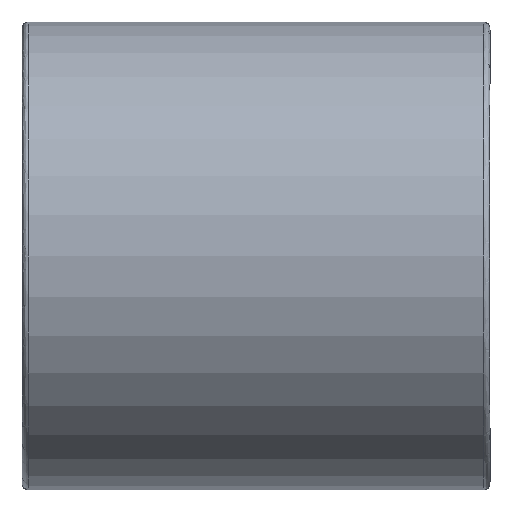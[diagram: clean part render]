
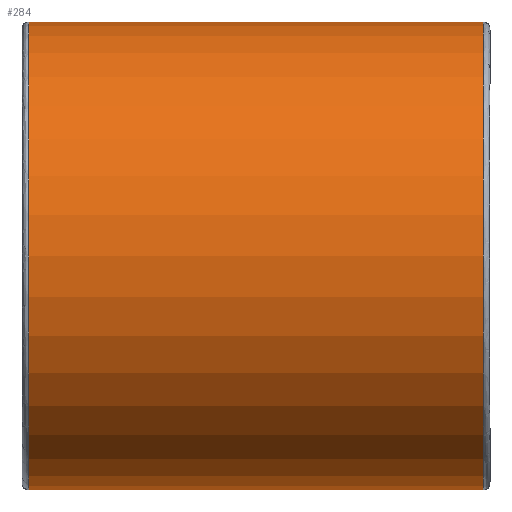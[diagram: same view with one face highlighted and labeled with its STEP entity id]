
A CAD part, left-side view. The second image highlights one B-rep face of the part: STEP entity #284.
In plain terms, the highlighted cylindrical face has radius 9 mm (diameter 18 mm), a partial arc.
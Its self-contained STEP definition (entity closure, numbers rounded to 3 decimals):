
#13 = CARTESIAN_POINT ( 'NONE',  ( 0., -8.75, 0. ) ) ;
#17 = LINE ( 'NONE', #149, #401 ) ;
#97 = CARTESIAN_POINT ( 'NONE',  ( 0., 9., 0. ) ) ;
#107 = DIRECTION ( 'NONE',  ( 0., -1., 0. ) ) ;
#128 = ORIENTED_EDGE ( 'NONE', *, *, #726, .T. ) ;
#149 = CARTESIAN_POINT ( 'NONE',  ( 0., 9., 9. ) ) ;
#234 = CARTESIAN_POINT ( 'NONE',  ( 0., 9., -9. ) ) ;
#265 = DIRECTION ( 'NONE',  ( 0., 0., -1. ) ) ;
#267 = VECTOR ( 'NONE', #107, 1000. ) ;
#284 = ADVANCED_FACE ( 'NONE', ( #342 ), #303, .T. ) ;
#288 = CARTESIAN_POINT ( 'NONE',  ( 0., -8.75, -9. ) ) ;
#294 = EDGE_CURVE ( 'NONE', #585, #437, #17, .T. ) ;
#297 = DIRECTION ( 'NONE',  ( 0., 0., -1. ) ) ;
#303 = CYLINDRICAL_SURFACE ( 'NONE', #641, 9. ) ;
#320 = AXIS2_PLACEMENT_3D ( 'NONE', #392, #824, #468 ) ;
#323 = VERTEX_POINT ( 'NONE', #288 ) ;
#342 = FACE_OUTER_BOUND ( 'NONE', #540, .T. ) ;
#392 = CARTESIAN_POINT ( 'NONE',  ( 0., 8.75, 0. ) ) ;
#401 = VECTOR ( 'NONE', #794, 1000. ) ;
#437 = VERTEX_POINT ( 'NONE', #599 ) ;
#461 = EDGE_CURVE ( 'NONE', #498, #323, #826, .T. ) ;
#468 = DIRECTION ( 'NONE',  ( 0., 0., -1. ) ) ;
#498 = VERTEX_POINT ( 'NONE', #827 ) ;
#517 = EDGE_CURVE ( 'NONE', #585, #498, #729, .T. ) ;
#539 = CARTESIAN_POINT ( 'NONE',  ( 0., 8.75, 9. ) ) ;
#540 = EDGE_LOOP ( 'NONE', ( #872, #674, #836, #128 ) ) ;
#585 = VERTEX_POINT ( 'NONE', #539 ) ;
#599 = CARTESIAN_POINT ( 'NONE',  ( 0., -8.75, 9. ) ) ;
#641 = AXIS2_PLACEMENT_3D ( 'NONE', #97, #784, #297 ) ;
#674 = ORIENTED_EDGE ( 'NONE', *, *, #517, .T. ) ;
#697 = DIRECTION ( 'NONE',  ( 0., 1., 0. ) ) ;
#726 = EDGE_CURVE ( 'NONE', #323, #437, #731, .T. ) ;
#729 = CIRCLE ( 'NONE', #320, 9. ) ;
#731 = CIRCLE ( 'NONE', #788, 9. ) ;
#784 = DIRECTION ( 'NONE',  ( 0., -1., 0. ) ) ;
#788 = AXIS2_PLACEMENT_3D ( 'NONE', #13, #697, #265 ) ;
#794 = DIRECTION ( 'NONE',  ( 0., -1., 0. ) ) ;
#824 = DIRECTION ( 'NONE',  ( 0., -1., 0. ) ) ;
#826 = LINE ( 'NONE', #234, #267 ) ;
#827 = CARTESIAN_POINT ( 'NONE',  ( 0., 8.75, -9. ) ) ;
#836 = ORIENTED_EDGE ( 'NONE', *, *, #461, .T. ) ;
#872 = ORIENTED_EDGE ( 'NONE', *, *, #294, .F. ) ;
